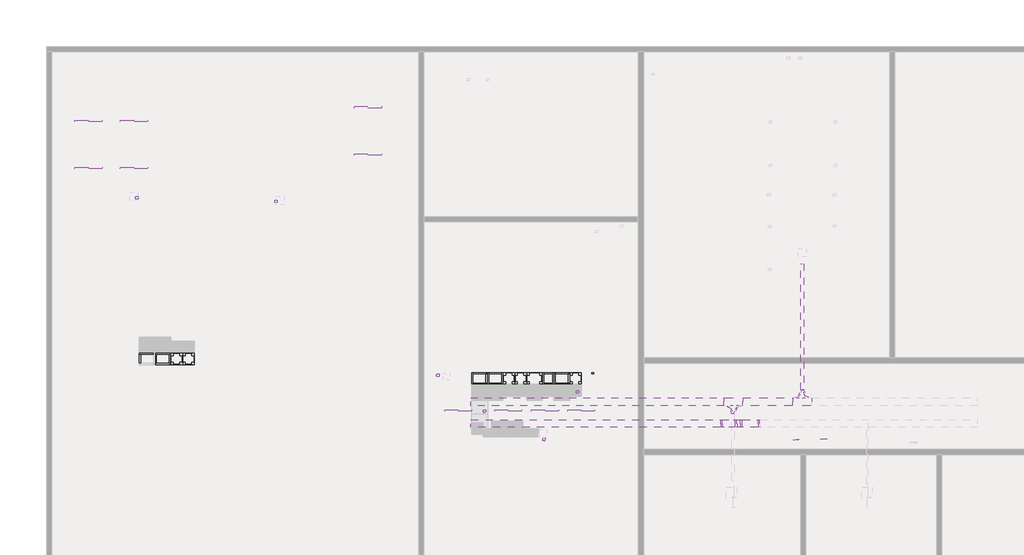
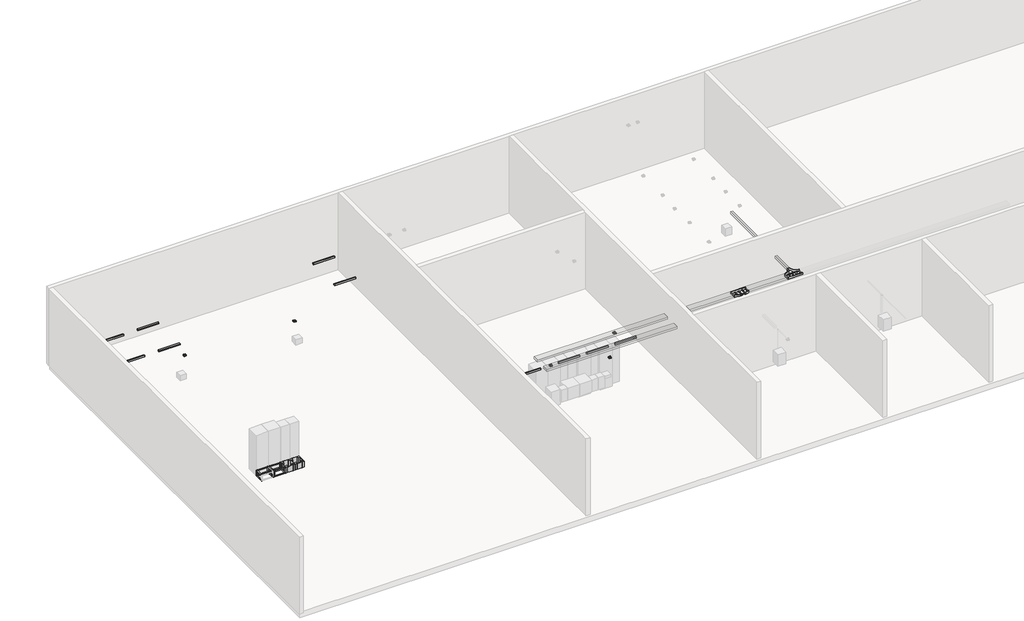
# One storey, part 2 of 3: 79 proxies, 12 light fixtures, 7 cable carrier segments, 6 cable carrier fittings, 1 switching device.
"""IFC4 building model written with IfcOpenShell, lengths in millimetres."""

from ifc_helpers import new_model, si_unit, frame, origin, place, context, project, spatial, polyline, outline, extrude, transform, mapped, element, save
from components import electrical_fixtures_ff56aada, electrical_equipment_4f19a133, electrical_equipment_901cc76d, electrical_equipment_40f9489f, electrical_equipment_06911bee, electrical_equipment_d66dbdba, electrical_equipment_c6ea6501, cable_carrier_fitting_4d649961, cable_carrier_fitting_a6b9008f, cable_carrier_fitting_a781886d, cable_carrier_fitting_0e7ed510, cable_carrier_fitting_be630497, light_fixture_a1cd45f6, light_fixture_98ed1024, switching_device_7e4b18a8

model = new_model("IFC4")

# Units and contexts
model_context = context("Model", 3, world=origin())
ifc_project = project(units=[si_unit("LENGTHUNIT", "METRE", prefix="MILLI")], contexts=[model_context])

# Site, building, storey
site = spatial("IfcSite", under=ifc_project)
building = spatial("IfcBuilding", under=site)
storey = spatial("IfcBuildingStorey", under=building, Name="Координационный план", Elevation=0.0)

# Proxies
placement = place(None, origin())
electrical_fixtures_shape = electrical_fixtures_ff56aada(model_context)
element("IfcBuildingElementProxy", 1, Name="mS_EF_НГ_электроприбор : mS_EF_НГ_электроприбор", ObjectType="mS_EF_НГ_электроприбор : mS_EF_НГ_электроприбор", at=placement, inside=storey, context=model_context, shape_type="MappedRepresentation", body=[
    mapped(electrical_fixtures_shape, transform((-10869.8851164, 9389.7978486, 2712.088133), x_axis=(1.0, 0.0, 0.0), y_axis=(0.0, 1.0, 0.0), z_axis=(0.0, 0.0, 1.0))),
])
element("IfcBuildingElementProxy", 2, Name="mS_EF_НГ_электроприбор : mS_EF_НГ_электроприбор", ObjectType="mS_EF_НГ_электроприбор : mS_EF_НГ_электроприбор", at=placement, inside=storey, context=model_context, shape_type="MappedRepresentation", body=[
    mapped(electrical_fixtures_shape, transform((-5550.6256618, 9249.0275541, 2712.088133), x_axis=(1.0, 0.0, 0.0), y_axis=(0.0, 1.0, 0.0), z_axis=(0.0, 0.0, 1.0))),
])
electrical_equipment_shape = electrical_equipment_4f19a133(model_context)
element("IfcBuildingElementProxy", 3, Name="▲EE_Уголок_стальной : 50х50х5_мм", ObjectType="▲EE_Уголок_стальной : 50х50х5_мм", at=placement, inside=storey, context=model_context, shape_type="MappedRepresentation", body=[
    mapped(electrical_equipment_shape, transform((5675.225208, 2252.5292219, 0.0), x_axis=(-1.0, 0.0, 0.0), y_axis=(0.0, -1.0, 0.0), z_axis=(0.0, 0.0, 1.0))),
])
element("IfcBuildingElementProxy", 4, Name="▲EE_Уголок_стальной : 50х50х5_мм", ObjectType="▲EE_Уголок_стальной : 50х50х5_мм", at=placement, inside=storey, context=model_context, shape_type="MappedRepresentation", body=[
    mapped(electrical_equipment_shape, transform((5525.225208, 2702.5292219, 0.0), x_axis=(0.0, -1.0, 0.0), y_axis=(1.0, 0.0, 0.0), z_axis=(0.0, 0.0, 1.0))),
])
element("IfcBuildingElementProxy", 5, Name="▲EE_Уголок_стальной : 50х50х5_мм", ObjectType="▲EE_Уголок_стальной : 50х50х5_мм", at=placement, inside=storey, context=model_context, shape_type="MappedRepresentation", body=[
    mapped(electrical_equipment_shape, transform((5075.225208, 2252.5292219, 0.0), x_axis=(-1.0, 0.0, 0.0), y_axis=(0.0, -1.0, 0.0), z_axis=(0.0, 0.0, 1.0))),
])
element("IfcBuildingElementProxy", 6, Name="▲EE_Уголок_стальной : 50х50х5_мм", ObjectType="▲EE_Уголок_стальной : 50х50х5_мм", at=placement, inside=storey, context=model_context, shape_type="MappedRepresentation", body=[
    mapped(electrical_equipment_shape, transform((5075.225208, 2702.5292219, 0.0), x_axis=(0.0, -1.0, 0.0), y_axis=(1.0, 0.0, 0.0), z_axis=(0.0, 0.0, 1.0))),
])
element("IfcBuildingElementProxy", 7, Name="▲EE_Уголок_стальной : 50х50х5_мм", ObjectType="▲EE_Уголок_стальной : 50х50х5_мм", at=placement, inside=storey, context=model_context, shape_type="MappedRepresentation", body=[
    mapped(electrical_equipment_shape, transform((2525.225208, 2252.5292219, 0.0), x_axis=(-1.0, 0.0, 0.0), y_axis=(0.0, -1.0, 0.0), z_axis=(0.0, 0.0, 1.0))),
])
element("IfcBuildingElementProxy", 8, Name="▲EE_Уголок_стальной : 50х50х5_мм", ObjectType="▲EE_Уголок_стальной : 50х50х5_мм", at=placement, inside=storey, context=model_context, shape_type="MappedRepresentation", body=[
    mapped(electrical_equipment_shape, transform((2375.225208, 2702.5292219, 0.0), x_axis=(0.0, -1.0, 0.0), y_axis=(1.0, 0.0, 0.0), z_axis=(0.0, 0.0, 1.0))),
])
element("IfcBuildingElementProxy", 9, Name="▲EE_Уголок_стальной : 50х50х5_мм", ObjectType="▲EE_Уголок_стальной : 50х50х5_мм", at=placement, inside=storey, context=model_context, shape_type="MappedRepresentation", body=[
    mapped(electrical_equipment_shape, transform((3125.225208, 2252.5292219, 0.0), x_axis=(-1.0, 0.0, 0.0), y_axis=(0.0, -1.0, 0.0), z_axis=(0.0, 0.0, 1.0))),
])
element("IfcBuildingElementProxy", 10, Name="▲EE_Уголок_стальной : 50х50х5_мм", ObjectType="▲EE_Уголок_стальной : 50х50х5_мм", at=placement, inside=storey, context=model_context, shape_type="MappedRepresentation", body=[
    mapped(electrical_equipment_shape, transform((2975.225208, 2702.5292219, 0.0), x_axis=(0.0, -1.0, 0.0), y_axis=(1.0, 0.0, 0.0), z_axis=(0.0, 0.0, 1.0))),
])
element("IfcBuildingElementProxy", 11, Name="▲EE_Уголок_стальной : 50х50х5_мм", ObjectType="▲EE_Уголок_стальной : 50х50х5_мм", at=placement, inside=storey, context=model_context, shape_type="MappedRepresentation", body=[
    mapped(electrical_equipment_shape, transform((2075.225208, 2252.5292219, 0.0), x_axis=(0.0, 1.0, 0.0), y_axis=(-1.0, 0.0, 0.0), z_axis=(0.0, 0.0, 1.0))),
])
element("IfcBuildingElementProxy", 12, Name="▲EE_Уголок_стальной : 50х50х5_мм", ObjectType="▲EE_Уголок_стальной : 50х50х5_мм", at=placement, inside=storey, context=model_context, shape_type="MappedRepresentation", body=[
    mapped(electrical_equipment_shape, transform((1925.225208, 2702.5292219, 0.0), x_axis=(1.0, 0.0, 0.0), y_axis=(0.0, 1.0, 0.0), z_axis=(0.0, 0.0, 1.0))),
])
element("IfcBuildingElementProxy", 13, Name="▲EE_Уголок_стальной : 50х50х5_мм", ObjectType="▲EE_Уголок_стальной : 50х50х5_мм", at=placement, inside=storey, context=model_context, shape_type="MappedRepresentation", body=[
    mapped(electrical_equipment_shape, transform((2675.225208, 2252.5292219, 0.0), x_axis=(0.0, 1.0, 0.0), y_axis=(-1.0, 0.0, 0.0), z_axis=(0.0, 0.0, 1.0))),
])
element("IfcBuildingElementProxy", 14, Name="▲EE_Уголок_стальной : 50х50х5_мм", ObjectType="▲EE_Уголок_стальной : 50х50х5_мм", at=placement, inside=storey, context=model_context, shape_type="MappedRepresentation", body=[
    mapped(electrical_equipment_shape, transform((2525.225208, 2702.5292219, 0.0), x_axis=(1.0, 0.0, 0.0), y_axis=(0.0, 1.0, 0.0), z_axis=(0.0, 0.0, 1.0))),
])
element("IfcBuildingElementProxy", 15, Name="▲EE_Уголок_стальной : 50х50х5_мм", ObjectType="▲EE_Уголок_стальной : 50х50х5_мм", at=placement, inside=storey, context=model_context, shape_type="MappedRepresentation", body=[
    mapped(electrical_equipment_shape, transform((4625.225208, 2252.5292219, 0.0), x_axis=(0.0, 1.0, 0.0), y_axis=(-1.0, 0.0, 0.0), z_axis=(0.0, 0.0, 1.0))),
])
element("IfcBuildingElementProxy", 16, Name="▲EE_Уголок_стальной : 50х50х5_мм", ObjectType="▲EE_Уголок_стальной : 50х50х5_мм", at=placement, inside=storey, context=model_context, shape_type="MappedRepresentation", body=[
    mapped(electrical_equipment_shape, transform((4625.225208, 2702.5292219, 0.0), x_axis=(1.0, 0.0, 0.0), y_axis=(0.0, 1.0, 0.0), z_axis=(0.0, 0.0, 1.0))),
])
element("IfcBuildingElementProxy", 17, Name="▲EE_Уголок_стальной : 50х50х5_мм", ObjectType="▲EE_Уголок_стальной : 50х50х5_мм", at=placement, inside=storey, context=model_context, shape_type="MappedRepresentation", body=[
    mapped(electrical_equipment_shape, transform((5225.225208, 2252.5292219, 0.0), x_axis=(0.0, 1.0, 0.0), y_axis=(-1.0, 0.0, 0.0), z_axis=(0.0, 0.0, 1.0))),
])
element("IfcBuildingElementProxy", 18, Name="▲EE_Уголок_стальной : 50х50х5_мм", ObjectType="▲EE_Уголок_стальной : 50х50х5_мм", at=placement, inside=storey, context=model_context, shape_type="MappedRepresentation", body=[
    mapped(electrical_equipment_shape, transform((5075.225208, 2702.5292219, 0.0), x_axis=(1.0, 0.0, 0.0), y_axis=(0.0, 1.0, 0.0), z_axis=(0.0, 0.0, 1.0))),
])
element("IfcBuildingElementProxy", 19, Name="▲EE_Уголок_стальной : 50х50х5_мм", ObjectType="▲EE_Уголок_стальной : 50х50х5_мм", at=placement, inside=storey, context=model_context, shape_type="MappedRepresentation", body=[
    mapped(electrical_equipment_shape, transform((-10174.8851164, 3459.0275541, 0.0), x_axis=(1.0, 0.0, 0.0), y_axis=(0.0, 1.0, 0.0), z_axis=(0.0, 0.0, 1.0))),
])
element("IfcBuildingElementProxy", 20, Name="▲EE_Уголок_стальной : 50х50х5_мм", ObjectType="▲EE_Уголок_стальной : 50х50х5_мм", at=placement, inside=storey, context=model_context, shape_type="MappedRepresentation", body=[
    mapped(electrical_equipment_shape, transform((-10024.8851164, 3009.0275541, 0.0), x_axis=(0.0, 1.0, 0.0), y_axis=(-1.0, 0.0, 0.0), z_axis=(0.0, 0.0, 1.0))),
])
element("IfcBuildingElementProxy", 21, Name="▲EE_Уголок_стальной : 50х50х5_мм", ObjectType="▲EE_Уголок_стальной : 50х50х5_мм", at=placement, inside=storey, context=model_context, shape_type="MappedRepresentation", body=[
    mapped(electrical_equipment_shape, transform((-10324.8851164, 3459.0275541, 0.0), x_axis=(0.0, -1.0, 0.0), y_axis=(1.0, 0.0, 0.0), z_axis=(0.0, 0.0, 1.0))),
])
element("IfcBuildingElementProxy", 22, Name="▲EE_Уголок_стальной : 50х50х5_мм", ObjectType="▲EE_Уголок_стальной : 50х50х5_мм", at=placement, inside=storey, context=model_context, shape_type="MappedRepresentation", body=[
    mapped(electrical_equipment_shape, transform((-10174.8851164, 3009.0275541, 0.0), x_axis=(-1.0, 0.0, 0.0), y_axis=(0.0, -1.0, 0.0), z_axis=(0.0, 0.0, 1.0))),
])
element("IfcBuildingElementProxy", 23, Name="▲EE_Уголок_стальной : 50х50х5_мм", ObjectType="▲EE_Уголок_стальной : 50х50х5_мм", at=placement, inside=storey, context=model_context, shape_type="MappedRepresentation", body=[
    mapped(electrical_equipment_shape, transform((-9724.8851164, 3459.0275541, 0.0), x_axis=(0.0, -1.0, 0.0), y_axis=(1.0, 0.0, 0.0), z_axis=(0.0, 0.0, 1.0))),
])
element("IfcBuildingElementProxy", 24, Name="▲EE_Уголок_стальной : 50х50х5_мм", ObjectType="▲EE_Уголок_стальной : 50х50х5_мм", at=placement, inside=storey, context=model_context, shape_type="MappedRepresentation", body=[
    mapped(electrical_equipment_shape, transform((-9574.8851164, 3009.0275541, 0.0), x_axis=(-1.0, 0.0, 0.0), y_axis=(0.0, -1.0, 0.0), z_axis=(0.0, 0.0, 1.0))),
])
electrical_equipment_2_shape = electrical_equipment_901cc76d(model_context)
element("IfcBuildingElementProxy", 25, Name="▲EE_Уголок_стальной : 50х50х5_мм", ObjectType="▲EE_Уголок_стальной : 50х50х5_мм", at=placement, inside=storey, context=model_context, shape_type="MappedRepresentation", body=[
    mapped(electrical_equipment_2_shape, transform((5075.225208, 2252.5292219, -150.0), x_axis=(1.0, 0.0, 0.0), y_axis=(0.0, 0.0, -1.0), z_axis=(0.0, 1.0, 0.0))),
])
element("IfcBuildingElementProxy", 26, Name="▲EE_Уголок_стальной : 50х50х5_мм", ObjectType="▲EE_Уголок_стальной : 50х50х5_мм", at=placement, inside=storey, context=model_context, shape_type="MappedRepresentation", body=[
    mapped(electrical_equipment_2_shape, transform((5675.225208, 2252.5292219, 450.0), x_axis=(-1.0, 0.0, 0.0), y_axis=(0.0, 0.0, 1.0), z_axis=(0.0, 1.0, 0.0))),
])
element("IfcBuildingElementProxy", 27, Name="▲EE_Уголок_стальной : 50х50х5_мм", ObjectType="▲EE_Уголок_стальной : 50х50х5_мм", at=placement, inside=storey, context=model_context, shape_type="MappedRepresentation", body=[
    mapped(electrical_equipment_2_shape, transform((5525.225208, 2252.5292219, 0.0), x_axis=(0.0, 0.0, 1.0), y_axis=(1.0, 0.0, 0.0), z_axis=(0.0, 1.0, 0.0))),
])
element("IfcBuildingElementProxy", 28, Name="▲EE_Уголок_стальной : 50х50х5_мм", ObjectType="▲EE_Уголок_стальной : 50х50х5_мм", at=placement, inside=storey, context=model_context, shape_type="MappedRepresentation", body=[
    mapped(electrical_equipment_2_shape, transform((5225.225208, 2252.5292219, 300.0), x_axis=(0.0, 0.0, -1.0), y_axis=(-1.0, 0.0, 0.0), z_axis=(0.0, 1.0, 0.0))),
])
element("IfcBuildingElementProxy", 29, Name="▲EE_Уголок_стальной : 50х50х5_мм", ObjectType="▲EE_Уголок_стальной : 50х50х5_мм", at=placement, inside=storey, context=model_context, shape_type="MappedRepresentation", body=[
    mapped(electrical_equipment_2_shape, transform((4625.225208, 2252.5292219, -150.0), x_axis=(1.0, 0.0, 0.0), y_axis=(0.0, 0.0, -1.0), z_axis=(0.0, 1.0, 0.0))),
])
element("IfcBuildingElementProxy", 30, Name="▲EE_Уголок_стальной : 50х50х5_мм", ObjectType="▲EE_Уголок_стальной : 50х50х5_мм", at=placement, inside=storey, context=model_context, shape_type="MappedRepresentation", body=[
    mapped(electrical_equipment_2_shape, transform((5075.225208, 2702.5292219, 450.0), x_axis=(0.0, -1.0, 0.0), y_axis=(0.0, 0.0, 1.0), z_axis=(-1.0, 0.0, 0.0))),
])
element("IfcBuildingElementProxy", 31, Name="▲EE_Уголок_стальной : 50х50х5_мм", ObjectType="▲EE_Уголок_стальной : 50х50х5_мм", at=placement, inside=storey, context=model_context, shape_type="MappedRepresentation", body=[
    mapped(electrical_equipment_2_shape, transform((5075.225208, 2252.5292219, 300.0), x_axis=(0.0, 0.0, -1.0), y_axis=(0.0, -1.0, 0.0), z_axis=(-1.0, 0.0, 0.0))),
])
element("IfcBuildingElementProxy", 32, Name="▲EE_Уголок_стальной : 50х50х5_мм", ObjectType="▲EE_Уголок_стальной : 50х50х5_мм", at=placement, inside=storey, context=model_context, shape_type="MappedRepresentation", body=[
    mapped(electrical_equipment_2_shape, transform((5075.225208, 2702.5292219, 0.0), x_axis=(0.0, 0.0, 1.0), y_axis=(0.0, 1.0, 0.0), z_axis=(-1.0, 0.0, 0.0))),
])
element("IfcBuildingElementProxy", 33, Name="▲EE_Уголок_стальной : 50х50х5_мм", ObjectType="▲EE_Уголок_стальной : 50х50х5_мм", at=placement, inside=storey, context=model_context, shape_type="MappedRepresentation", body=[
    mapped(electrical_equipment_2_shape, transform((5075.225208, 2252.5292219, -150.0), x_axis=(0.0, 1.0, 0.0), y_axis=(0.0, 0.0, -1.0), z_axis=(-1.0, 0.0, 0.0))),
])
element("IfcBuildingElementProxy", 34, Name="▲EE_Уголок_стальной : 50х50х5_мм", ObjectType="▲EE_Уголок_стальной : 50х50х5_мм", at=placement, inside=storey, context=model_context, shape_type="MappedRepresentation", body=[
    mapped(electrical_equipment_2_shape, transform((5075.225208, 2252.5292219, 450.0), x_axis=(-1.0, 0.0, 0.0), y_axis=(0.0, 0.0, 1.0), z_axis=(0.0, 1.0, 0.0))),
])
element("IfcBuildingElementProxy", 35, Name="▲EE_Уголок_стальной : 50х50х5_мм", ObjectType="▲EE_Уголок_стальной : 50х50х5_мм", at=placement, inside=storey, context=model_context, shape_type="MappedRepresentation", body=[
    mapped(electrical_equipment_2_shape, transform((5075.225208, 2252.5292219, 0.0), x_axis=(0.0, 0.0, 1.0), y_axis=(1.0, 0.0, 0.0), z_axis=(0.0, 1.0, 0.0))),
])
element("IfcBuildingElementProxy", 36, Name="▲EE_Уголок_стальной : 50х50х5_мм", ObjectType="▲EE_Уголок_стальной : 50х50х5_мм", at=placement, inside=storey, context=model_context, shape_type="MappedRepresentation", body=[
    mapped(electrical_equipment_2_shape, transform((4625.225208, 2252.5292219, 300.0), x_axis=(0.0, 0.0, -1.0), y_axis=(-1.0, 0.0, 0.0), z_axis=(0.0, 1.0, 0.0))),
])
element("IfcBuildingElementProxy", 37, Name="▲EE_Уголок_стальной : 50х50х5_мм", ObjectType="▲EE_Уголок_стальной : 50х50х5_мм", at=placement, inside=storey, context=model_context, shape_type="MappedRepresentation", body=[
    mapped(electrical_equipment_2_shape, transform((1925.225208, 2252.5292219, -150.0), x_axis=(1.0, 0.0, 0.0), y_axis=(0.0, 0.0, -1.0), z_axis=(0.0, 1.0, 0.0))),
])
element("IfcBuildingElementProxy", 38, Name="▲EE_Уголок_стальной : 50х50х5_мм", ObjectType="▲EE_Уголок_стальной : 50х50х5_мм", at=placement, inside=storey, context=model_context, shape_type="MappedRepresentation", body=[
    mapped(electrical_equipment_2_shape, transform((2525.225208, 2252.5292219, 450.0), x_axis=(-1.0, 0.0, 0.0), y_axis=(0.0, 0.0, 1.0), z_axis=(0.0, 1.0, 0.0))),
])
element("IfcBuildingElementProxy", 39, Name="▲EE_Уголок_стальной : 50х50х5_мм", ObjectType="▲EE_Уголок_стальной : 50х50х5_мм", at=placement, inside=storey, context=model_context, shape_type="MappedRepresentation", body=[
    mapped(electrical_equipment_2_shape, transform((2375.225208, 2252.5292219, 0.0), x_axis=(0.0, 0.0, 1.0), y_axis=(1.0, 0.0, 0.0), z_axis=(0.0, 1.0, 0.0))),
])
element("IfcBuildingElementProxy", 40, Name="▲EE_Уголок_стальной : 50х50х5_мм", ObjectType="▲EE_Уголок_стальной : 50х50х5_мм", at=placement, inside=storey, context=model_context, shape_type="MappedRepresentation", body=[
    mapped(electrical_equipment_2_shape, transform((2075.225208, 2252.5292219, 300.0), x_axis=(0.0, 0.0, -1.0), y_axis=(-1.0, 0.0, 0.0), z_axis=(0.0, 1.0, 0.0))),
])
element("IfcBuildingElementProxy", 41, Name="▲EE_Уголок_стальной : 50х50х5_мм", ObjectType="▲EE_Уголок_стальной : 50х50х5_мм", at=placement, inside=storey, context=model_context, shape_type="MappedRepresentation", body=[
    mapped(electrical_equipment_2_shape, transform((2525.225208, 2252.5292219, -150.0), x_axis=(1.0, 0.0, 0.0), y_axis=(0.0, 0.0, -1.0), z_axis=(0.0, 1.0, 0.0))),
])
element("IfcBuildingElementProxy", 42, Name="▲EE_Уголок_стальной : 50х50х5_мм", ObjectType="▲EE_Уголок_стальной : 50х50х5_мм", at=placement, inside=storey, context=model_context, shape_type="MappedRepresentation", body=[
    mapped(electrical_equipment_2_shape, transform((3125.225208, 2252.5292219, 450.0), x_axis=(-1.0, 0.0, 0.0), y_axis=(0.0, 0.0, 1.0), z_axis=(0.0, 1.0, 0.0))),
])
element("IfcBuildingElementProxy", 43, Name="▲EE_Уголок_стальной : 50х50х5_мм", ObjectType="▲EE_Уголок_стальной : 50х50х5_мм", at=placement, inside=storey, context=model_context, shape_type="MappedRepresentation", body=[
    mapped(electrical_equipment_2_shape, transform((2975.225208, 2252.5292219, 0.0), x_axis=(0.0, 0.0, 1.0), y_axis=(1.0, 0.0, 0.0), z_axis=(0.0, 1.0, 0.0))),
])
element("IfcBuildingElementProxy", 44, Name="▲EE_Уголок_стальной : 50х50х5_мм", ObjectType="▲EE_Уголок_стальной : 50х50х5_мм", at=placement, inside=storey, context=model_context, shape_type="MappedRepresentation", body=[
    mapped(electrical_equipment_2_shape, transform((2675.225208, 2252.5292219, 300.0), x_axis=(0.0, 0.0, -1.0), y_axis=(-1.0, 0.0, 0.0), z_axis=(0.0, 1.0, 0.0))),
])
element("IfcBuildingElementProxy", 45, Name="▲EE_Уголок_стальной : 50х50х5_мм", ObjectType="▲EE_Уголок_стальной : 50х50х5_мм", at=placement, inside=storey, context=model_context, shape_type="MappedRepresentation", body=[
    mapped(electrical_equipment_2_shape, transform((-10774.8851164, 3459.0275541, 450.0), x_axis=(1.0, 0.0, 0.0), y_axis=(0.0, 0.0, 1.0), z_axis=(0.0, -1.0, 0.0))),
])
element("IfcBuildingElementProxy", 46, Name="▲EE_Уголок_стальной : 50х50х5_мм", ObjectType="▲EE_Уголок_стальной : 50х50х5_мм", at=placement, inside=storey, context=model_context, shape_type="MappedRepresentation", body=[
    mapped(electrical_equipment_2_shape, transform((-10624.8851164, 3459.0275541, 0.0), x_axis=(0.0, 0.0, 1.0), y_axis=(-1.0, 0.0, 0.0), z_axis=(0.0, -1.0, 0.0))),
])
element("IfcBuildingElementProxy", 47, Name="▲EE_Уголок_стальной : 50х50х5_мм", ObjectType="▲EE_Уголок_стальной : 50х50х5_мм", at=placement, inside=storey, context=model_context, shape_type="MappedRepresentation", body=[
    mapped(electrical_equipment_2_shape, transform((-10324.8851164, 3459.0275541, 300.0), x_axis=(0.0, 0.0, -1.0), y_axis=(1.0, 0.0, 0.0), z_axis=(0.0, -1.0, 0.0))),
])
element("IfcBuildingElementProxy", 48, Name="▲EE_Уголок_стальной : 50х50х5_мм", ObjectType="▲EE_Уголок_стальной : 50х50х5_мм", at=placement, inside=storey, context=model_context, shape_type="MappedRepresentation", body=[
    mapped(electrical_equipment_2_shape, transform((-9574.8851164, 3459.0275541, -150.0), x_axis=(-1.0, 0.0, 0.0), y_axis=(0.0, 0.0, -1.0), z_axis=(0.0, -1.0, 0.0))),
])
element("IfcBuildingElementProxy", 49, Name="▲EE_Уголок_стальной : 50х50х5_мм", ObjectType="▲EE_Уголок_стальной : 50х50х5_мм", at=placement, inside=storey, context=model_context, shape_type="MappedRepresentation", body=[
    mapped(electrical_equipment_2_shape, transform((-10174.8851164, 3459.0275541, 450.0), x_axis=(1.0, 0.0, 0.0), y_axis=(0.0, 0.0, 1.0), z_axis=(0.0, -1.0, 0.0))),
])
element("IfcBuildingElementProxy", 50, Name="▲EE_Уголок_стальной : 50х50х5_мм", ObjectType="▲EE_Уголок_стальной : 50х50х5_мм", at=placement, inside=storey, context=model_context, shape_type="MappedRepresentation", body=[
    mapped(electrical_equipment_2_shape, transform((-10024.8851164, 3459.0275541, 0.0), x_axis=(0.0, 0.0, 1.0), y_axis=(-1.0, 0.0, 0.0), z_axis=(0.0, -1.0, 0.0))),
])
element("IfcBuildingElementProxy", 51, Name="▲EE_Уголок_стальной : 50х50х5_мм", ObjectType="▲EE_Уголок_стальной : 50х50х5_мм", at=placement, inside=storey, context=model_context, shape_type="MappedRepresentation", body=[
    mapped(electrical_equipment_2_shape, transform((-9724.8851164, 3459.0275541, 300.0), x_axis=(0.0, 0.0, -1.0), y_axis=(1.0, 0.0, 0.0), z_axis=(0.0, -1.0, 0.0))),
])
electrical_equipment_3_shape = electrical_equipment_40f9489f(model_context)
element("IfcBuildingElementProxy", 52, Name="▲EE_Уголок_стальной : 50х50х5_мм", ObjectType="▲EE_Уголок_стальной : 50х50х5_мм", at=placement, inside=storey, context=model_context, shape_type="MappedRepresentation", body=[
    mapped(electrical_equipment_3_shape, transform((5675.225208, 2702.5292219, 450.0), x_axis=(0.0, -1.0, 0.0), y_axis=(0.0, 0.0, 1.0), z_axis=(-1.0, 0.0, 0.0))),
])
element("IfcBuildingElementProxy", 53, Name="▲EE_Уголок_стальной : 50х50х5_мм", ObjectType="▲EE_Уголок_стальной : 50х50х5_мм", at=placement, inside=storey, context=model_context, shape_type="MappedRepresentation", body=[
    mapped(electrical_equipment_3_shape, transform((5675.225208, 2252.5292219, 300.0), x_axis=(0.0, 0.0, -1.0), y_axis=(0.0, -1.0, 0.0), z_axis=(-1.0, 0.0, 0.0))),
])
element("IfcBuildingElementProxy", 54, Name="▲EE_Уголок_стальной : 50х50х5_мм", ObjectType="▲EE_Уголок_стальной : 50х50х5_мм", at=placement, inside=storey, context=model_context, shape_type="MappedRepresentation", body=[
    mapped(electrical_equipment_3_shape, transform((5675.225208, 2702.5292219, 0.0), x_axis=(0.0, 0.0, 1.0), y_axis=(0.0, 1.0, 0.0), z_axis=(-1.0, 0.0, 0.0))),
])
element("IfcBuildingElementProxy", 55, Name="▲EE_Уголок_стальной : 50х50х5_мм", ObjectType="▲EE_Уголок_стальной : 50х50х5_мм", at=placement, inside=storey, context=model_context, shape_type="MappedRepresentation", body=[
    mapped(electrical_equipment_3_shape, transform((5675.225208, 2252.5292219, -150.0), x_axis=(0.0, 1.0, 0.0), y_axis=(0.0, 0.0, -1.0), z_axis=(-1.0, 0.0, 0.0))),
])
element("IfcBuildingElementProxy", 56, Name="▲EE_Уголок_стальной : 50х50х5_мм", ObjectType="▲EE_Уголок_стальной : 50х50х5_мм", at=placement, inside=storey, context=model_context, shape_type="MappedRepresentation", body=[
    mapped(electrical_equipment_3_shape, transform((2525.225208, 2702.5292219, 450.0), x_axis=(0.0, -1.0, 0.0), y_axis=(0.0, 0.0, 1.0), z_axis=(-1.0, 0.0, 0.0))),
])
element("IfcBuildingElementProxy", 57, Name="▲EE_Уголок_стальной : 50х50х5_мм", ObjectType="▲EE_Уголок_стальной : 50х50х5_мм", at=placement, inside=storey, context=model_context, shape_type="MappedRepresentation", body=[
    mapped(electrical_equipment_3_shape, transform((2525.225208, 2252.5292219, 300.0), x_axis=(0.0, 0.0, -1.0), y_axis=(0.0, -1.0, 0.0), z_axis=(-1.0, 0.0, 0.0))),
])
element("IfcBuildingElementProxy", 58, Name="▲EE_Уголок_стальной : 50х50х5_мм", ObjectType="▲EE_Уголок_стальной : 50х50х5_мм", at=placement, inside=storey, context=model_context, shape_type="MappedRepresentation", body=[
    mapped(electrical_equipment_3_shape, transform((2525.225208, 2702.5292219, 0.0), x_axis=(0.0, 0.0, 1.0), y_axis=(0.0, 1.0, 0.0), z_axis=(-1.0, 0.0, 0.0))),
])
element("IfcBuildingElementProxy", 59, Name="▲EE_Уголок_стальной : 50х50х5_мм", ObjectType="▲EE_Уголок_стальной : 50х50х5_мм", at=placement, inside=storey, context=model_context, shape_type="MappedRepresentation", body=[
    mapped(electrical_equipment_3_shape, transform((2525.225208, 2252.5292219, -150.0), x_axis=(0.0, 1.0, 0.0), y_axis=(0.0, 0.0, -1.0), z_axis=(-1.0, 0.0, 0.0))),
])
element("IfcBuildingElementProxy", 60, Name="▲EE_Уголок_стальной : 50х50х5_мм", ObjectType="▲EE_Уголок_стальной : 50х50х5_мм", at=placement, inside=storey, context=model_context, shape_type="MappedRepresentation", body=[
    mapped(electrical_equipment_3_shape, transform((3125.225208, 2702.5292219, 450.0), x_axis=(0.0, -1.0, 0.0), y_axis=(0.0, 0.0, 1.0), z_axis=(-1.0, 0.0, 0.0))),
])
element("IfcBuildingElementProxy", 61, Name="▲EE_Уголок_стальной : 50х50х5_мм", ObjectType="▲EE_Уголок_стальной : 50х50х5_мм", at=placement, inside=storey, context=model_context, shape_type="MappedRepresentation", body=[
    mapped(electrical_equipment_3_shape, transform((3125.225208, 2252.5292219, 300.0), x_axis=(0.0, 0.0, -1.0), y_axis=(0.0, -1.0, 0.0), z_axis=(-1.0, 0.0, 0.0))),
])
element("IfcBuildingElementProxy", 62, Name="▲EE_Уголок_стальной : 50х50х5_мм", ObjectType="▲EE_Уголок_стальной : 50х50х5_мм", at=placement, inside=storey, context=model_context, shape_type="MappedRepresentation", body=[
    mapped(electrical_equipment_3_shape, transform((3125.225208, 2702.5292219, 0.0), x_axis=(0.0, 0.0, 1.0), y_axis=(0.0, 1.0, 0.0), z_axis=(-1.0, 0.0, 0.0))),
])
element("IfcBuildingElementProxy", 63, Name="▲EE_Уголок_стальной : 50х50х5_мм", ObjectType="▲EE_Уголок_стальной : 50х50х5_мм", at=placement, inside=storey, context=model_context, shape_type="MappedRepresentation", body=[
    mapped(electrical_equipment_3_shape, transform((3125.225208, 2252.5292219, -150.0), x_axis=(0.0, 1.0, 0.0), y_axis=(0.0, 0.0, -1.0), z_axis=(-1.0, 0.0, 0.0))),
])
element("IfcBuildingElementProxy", 64, Name="▲EE_Уголок_стальной : 50х50х5_мм", ObjectType="▲EE_Уголок_стальной : 50х50х5_мм", at=placement, inside=storey, context=model_context, shape_type="MappedRepresentation", body=[
    mapped(electrical_equipment_3_shape, transform((-10774.8851164, 3009.0275541, 0.0), x_axis=(0.0, 0.0, 1.0), y_axis=(0.0, -1.0, 0.0), z_axis=(1.0, 0.0, 0.0))),
])
element("IfcBuildingElementProxy", 65, Name="▲EE_Уголок_стальной : 50х50х5_мм", ObjectType="▲EE_Уголок_стальной : 50х50х5_мм", at=placement, inside=storey, context=model_context, shape_type="MappedRepresentation", body=[
    mapped(electrical_equipment_3_shape, transform((-10774.8851164, 3459.0275541, -150.0), x_axis=(0.0, -1.0, 0.0), y_axis=(0.0, 0.0, -1.0), z_axis=(1.0, 0.0, 0.0))),
])
element("IfcBuildingElementProxy", 66, Name="▲EE_Уголок_стальной : 50х50х5_мм", ObjectType="▲EE_Уголок_стальной : 50х50х5_мм", at=placement, inside=storey, context=model_context, shape_type="MappedRepresentation", body=[
    mapped(electrical_equipment_3_shape, transform((-10174.8851164, 3009.0275541, 450.0), x_axis=(0.0, 1.0, 0.0), y_axis=(0.0, 0.0, 1.0), z_axis=(1.0, 0.0, 0.0))),
])
element("IfcBuildingElementProxy", 67, Name="▲EE_Уголок_стальной : 50х50х5_мм", ObjectType="▲EE_Уголок_стальной : 50х50х5_мм", at=placement, inside=storey, context=model_context, shape_type="MappedRepresentation", body=[
    mapped(electrical_equipment_3_shape, transform((-10174.8851164, 3459.0275541, 300.0), x_axis=(0.0, 0.0, -1.0), y_axis=(0.0, 1.0, 0.0), z_axis=(1.0, 0.0, 0.0))),
])
element("IfcBuildingElementProxy", 68, Name="▲EE_Уголок_стальной : 50х50х5_мм", ObjectType="▲EE_Уголок_стальной : 50х50х5_мм", at=placement, inside=storey, context=model_context, shape_type="MappedRepresentation", body=[
    mapped(electrical_equipment_3_shape, transform((-10174.8851164, 3009.0275541, 0.0), x_axis=(0.0, 0.0, 1.0), y_axis=(0.0, -1.0, 0.0), z_axis=(1.0, 0.0, 0.0))),
])
element("IfcBuildingElementProxy", 69, Name="▲EE_Уголок_стальной : 50х50х5_мм", ObjectType="▲EE_Уголок_стальной : 50х50х5_мм", at=placement, inside=storey, context=model_context, shape_type="MappedRepresentation", body=[
    mapped(electrical_equipment_3_shape, transform((-10174.8851164, 3459.0275541, -150.0), x_axis=(0.0, -1.0, 0.0), y_axis=(0.0, 0.0, -1.0), z_axis=(1.0, 0.0, 0.0))),
])
electrical_equipment_4_shape = electrical_equipment_06911bee(model_context)
element("IfcBuildingElementProxy", 70, Name="▲EE_Основание : заводское_300_мм", ObjectType="▲EE_Основание : заводское_300_мм", at=placement, inside=storey, context=model_context, shape_type="MappedRepresentation", body=[
    mapped(electrical_equipment_4_shape, transform((3350.225208, 2252.5292219, 0.0), x_axis=(-1.0, 0.0, 0.0), y_axis=(0.0, -1.0, 0.0), z_axis=(0.0, 0.0, 1.0))),
])
element("IfcBuildingElementProxy", 71, Name="▲EE_Основание : заводское_300_мм", ObjectType="▲EE_Основание : заводское_300_мм", at=placement, inside=storey, context=model_context, shape_type="MappedRepresentation", body=[
    mapped(electrical_equipment_4_shape, transform((3800.225208, 2252.5292219, 0.0), x_axis=(-1.0, 0.0, 0.0), y_axis=(0.0, -1.0, 0.0), z_axis=(0.0, 0.0, 1.0))),
])
element("IfcBuildingElementProxy", 72, Name="▲EE_Основание : заводское_300_мм", ObjectType="▲EE_Основание : заводское_300_мм", at=placement, inside=storey, context=model_context, shape_type="MappedRepresentation", body=[
    mapped(electrical_equipment_4_shape, transform((-9349.8851164, 3459.0275541, 0.0), x_axis=(1.0, 0.0, 0.0), y_axis=(0.0, 1.0, 0.0), z_axis=(0.0, 0.0, 1.0))),
])
element("IfcBuildingElementProxy", 73, Name="▲EE_Основание : заводское_300_мм", ObjectType="▲EE_Основание : заводское_300_мм", at=placement, inside=storey, context=model_context, shape_type="MappedRepresentation", body=[
    mapped(electrical_equipment_4_shape, transform((-8899.8851164, 3459.0275541, 0.0), x_axis=(1.0, 0.0, 0.0), y_axis=(0.0, 1.0, 0.0), z_axis=(0.0, 0.0, 1.0))),
])
element("IfcBuildingElementProxy", 74, Name="▲EE_Основание : заводское_300_мм", ObjectType="▲EE_Основание : заводское_300_мм", at=placement, inside=storey, context=model_context, shape_type="MappedRepresentation", body=[
    mapped(electrical_equipment_4_shape, transform((5900.225208, 2252.5292219, 0.0), x_axis=(-1.0, 0.0, 0.0), y_axis=(0.0, -1.0, 0.0), z_axis=(0.0, 0.0, 1.0))),
])
electrical_equipment_5_shape = electrical_equipment_d66dbdba(model_context)
element("IfcBuildingElementProxy", 75, Name="▲EE_Основание : заводское_300_мм", ObjectType="▲EE_Основание : заводское_300_мм", at=placement, inside=storey, context=model_context, shape_type="MappedRepresentation", body=[
    mapped(electrical_equipment_5_shape, transform((4325.225208, 2252.5292219, 0.0), x_axis=(-1.0, 0.0, 0.0), y_axis=(0.0, -1.0, 0.0), z_axis=(0.0, 0.0, 1.0))),
])
element("IfcBuildingElementProxy", 76, Name="mS_EF_НГ_электроприбор : mS_EF_НГ_электроприбор", ObjectType="mS_EF_НГ_электроприбор : mS_EF_НГ_электроприбор", at=placement, inside=storey, context=model_context, shape_type="MappedRepresentation", body=[
    mapped(electrical_fixtures_shape, transform((4690.5263398, 142.7595439, 2759.3582254), x_axis=(1.0, 0.0, 0.0), y_axis=(0.0, 1.0, 0.0), z_axis=(0.0, 0.0, 1.0))),
])
electrical_equipment_6_shape = electrical_equipment_c6ea6501(model_context)
element("IfcBuildingElementProxy", 77, Name="mS_EE_НГ_транзит : КО_IP44_ОУ_IEK_КМ41233_6Вв", ObjectType="mS_EE_НГ_транзит : КО_IP44_ОУ_IEK_КМ41233_6Вв", at=placement, inside=storey, context=model_context, shape_type="MappedRepresentation", body=[
    mapped(electrical_equipment_6_shape, transform((5980.4515096, 1969.9035091, 2500.0), x_axis=(1.0, 0.0, 0.0), y_axis=(0.0, 1.0, 0.0), z_axis=(0.0, 0.0, 1.0))),
])
element("IfcBuildingElementProxy", 78, Name="mS_EE_НГ_транзит : КО_IP44_ОУ_IEK_КМ41233_6Вв", ObjectType="mS_EE_НГ_транзит : КО_IP44_ОУ_IEK_КМ41233_6Вв", at=placement, inside=storey, context=model_context, shape_type="MappedRepresentation", body=[
    mapped(electrical_equipment_6_shape, transform((2415.5564936, 1234.2925215, 2500.0), x_axis=(1.0, 0.0, 0.0), y_axis=(0.0, 1.0, 0.0), z_axis=(0.0, 0.0, 1.0))),
])
element("IfcBuildingElementProxy", 79, Name="mS_EF_НГ_электроприбор : mS_EF_НГ_электроприбор", ObjectType="mS_EF_НГ_электроприбор : mS_EF_НГ_электроприбор", at=placement, inside=storey, context=model_context, shape_type="MappedRepresentation", body=[
    mapped(electrical_fixtures_shape, transform((635.225208, 2605.6042191, 1764.4022853), x_axis=(1.0, 0.0, 0.0), y_axis=(0.0, 1.0, 0.0), z_axis=(0.0, 0.0, 1.0))),
])

# Cable carrier fittings
cable_carrier_fitting_shape = cable_carrier_fitting_4d649961(model_context)
element("IfcCableCarrierFitting", 80, ObjectType="ADSK_Поворот вертикальный наружный_Лестничный лоток : Радиус 300 мм", at=placement, inside=storey, context=model_context, shape_type="MappedRepresentation", body=[
    mapped(cable_carrier_fitting_shape, transform((12907.8043426, 757.1822297, 2750.0), x_axis=(-1.0, 0.0, 0.0), y_axis=(0.0, 0.0, -1.0), z_axis=(0.0, -1.0, 0.0))),
])
cable_carrier_fitting_2_shape = cable_carrier_fitting_a6b9008f(model_context)
element("IfcCableCarrierFitting", 81, ObjectType="ADSK_Поворот вертикальный внутренний_Лестничный лоток : Радиус 300 мм", at=placement, inside=storey, context=model_context, shape_type="MappedRepresentation", body=[
    mapped(cable_carrier_fitting_2_shape, transform((12232.3635222, 757.1822297, 2581.5936892), x_axis=(1.0, 0.0, 0.0), y_axis=(0.0, 0.0, 1.0), z_axis=(0.0, -1.0, 0.0))),
])
cable_carrier_fitting_3_shape = cable_carrier_fitting_a781886d(model_context)
element("IfcCableCarrierFitting", 82, ObjectType="ADSK_Поворот вертикальный наружный_Лестничный лоток : Радиус 300 мм", at=placement, inside=storey, context=model_context, shape_type="MappedRepresentation", body=[
    mapped(cable_carrier_fitting_3_shape, transform((11487.8198093, 757.1822297, 2750.0), x_axis=(1.0, 0.0, 0.0), y_axis=(0.0, 0.0, -1.0), z_axis=(0.0, 1.0, 0.0))),
])
cable_carrier_fitting_4_shape = cable_carrier_fitting_0e7ed510(model_context)
element("IfcCableCarrierFitting", 83, ObjectType="ADSK_Поворот вертикальный внутренний_Лестничный лоток : Радиус 300 мм", at=placement, inside=storey, context=model_context, shape_type="MappedRepresentation", body=[
    mapped(cable_carrier_fitting_4_shape, transform((12026.5034264, 757.1822297, 2581.5936892), x_axis=(-1.0, 0.0, 0.0), y_axis=(0.0, 0.0, 1.0), z_axis=(0.0, 1.0, 0.0))),
])
cable_carrier_fitting_5_shape = cable_carrier_fitting_be630497(model_context)
element("IfcCableCarrierFitting", 84, ObjectType="ADSK_Ответвление_Лестничный лоток : Радиус 300 мм", at=placement, inside=storey, context=model_context, shape_type="MappedRepresentation", body=[
    mapped(cable_carrier_fitting_5_shape, transform((14563.1511731, 1585.0, 2750.0), x_axis=(-1.0, 0.0, 0.0), y_axis=(0.0, -1.0, 0.0), z_axis=(0.0, 0.0, 1.0))),
])
element("IfcCableCarrierFitting", 85, ObjectType="ADSK_Ответвление_Лестничный лоток : Радиус 300 мм", at=placement, inside=storey, context=model_context, shape_type="MappedRepresentation", body=[
    mapped(cable_carrier_fitting_5_shape, transform((11923.8206275, 1585.0, 2750.0), x_axis=(1.0, 0.0, 0.0), y_axis=(0.0, 1.0, 0.0), z_axis=(0.0, 0.0, 1.0))),
])

# Cable carrier segments
element("IfcCableCarrierSegment", 86, ObjectType="ADSK_Лестничный кабельный лоток", at=placement, inside=storey, context=model_context, shape_type="SweptSolid", body=[
    extrude(outline(polyline([(11563.8206275, 1735.0), (11563.8206275, 1435.0), (1899.7612457, 1435.0), (1899.7612457, 1735.0), (11563.8206275, 1735.0)])), frame((0.0, 0.0, 2700.0), z_axis=(0.0, 0.0, 1.0), x_axis=(1.0, 0.0, 0.0)), (0.0, 0.0, 1.0), 100.0),
])
element("IfcCableCarrierSegment", 87, ObjectType="ADSK_Лестничный кабельный лоток", at=placement, inside=storey, context=model_context, shape_type="SweptSolid", body=[
    extrude(outline(polyline([(14203.1511731, 1735.0), (14203.1511731, 1435.0), (12283.8206275, 1435.0), (12283.8206275, 1735.0), (14203.1511731, 1735.0)])), frame((0.0, 0.0, 2700.0), z_axis=(0.0, 0.0, 1.0), x_axis=(1.0, 0.0, 0.0)), (0.0, 0.0, 1.0), 100.0),
])
element("IfcCableCarrierSegment", 88, ObjectType="ADSK_Лестничный кабельный лоток", at=placement, inside=storey, context=model_context, shape_type="SweptSolid", body=[
    extrude(outline(polyline([(1899.7612457, 607.1822297), (1899.7612457, 907.1822297), (11424.3854894, 907.1822297), (11424.3854894, 607.1822297), (1899.7612457, 607.1822297)])), frame((0.0, 0.0, 2700.0), z_axis=(0.0, 0.0, 1.0), x_axis=(1.0, 0.0, 0.0)), (0.0, 0.0, 1.0), 100.0),
])
element("IfcCableCarrierSegment", 89, ObjectType="ADSK_Лестничный кабельный лоток", at=placement, inside=storey, context=model_context, shape_type="SweptSolid", body=[
    extrude(outline(polyline([(12089.9377463, 607.1822297), (12089.9377463, 907.1822297), (12179.3889259, 907.1822297), (12179.3889259, 607.1822297), (12089.9377463, 607.1822297)])), frame((0.0, 0.0, 2531.5936892), z_axis=(0.0, 0.0, 1.0), x_axis=(1.0, 0.0, 0.0)), (0.0, 0.0, 1.0), 100.0),
])
element("IfcCableCarrierSegment", 90, ObjectType="ADSK_Лестничный кабельный лоток", at=placement, inside=storey, context=model_context, shape_type="SweptSolid", body=[
    extrude(outline(polyline([(0.0, -300.0), (0.0, 0.0), (590.1693227, 0.0), (590.1693227, -300.0), (0.0, -300.0)])), frame((12868.499413, 607.1822297, 2688.6694989), z_axis=(-0.24192189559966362, 0.0, 0.9702957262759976), x_axis=(-0.9702957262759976, 0.0, -0.24192189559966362)), (0.0, 0.0, 1.0), 100.0),
])
element("IfcCableCarrierSegment", 91, ObjectType="ADSK_Лестничный кабельный лоток", at=placement, inside=storey, context=model_context, shape_type="SweptSolid", body=[
    extrude(outline(polyline([(0.0, -300.0), (0.0, 0.0), (437.5254821, 0.0), (437.5254821, -300.0), (0.0, -300.0)])), frame((11533.4452195, 907.1822297, 2683.3499071), z_axis=(0.2983842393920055, 0.0, 0.9544458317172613), x_axis=(0.9544458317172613, 0.0, -0.2983842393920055)), (0.0, 0.0, 1.0), 100.0),
])
element("IfcCableCarrierSegment", 92, ObjectType="ADSK_Перфорированный кабельный лоток", at=placement, inside=storey, context=model_context, shape_type="SweptSolid", body=[
    extrude(outline(polyline([(14613.1511731, 2045.0), (14513.1511731, 2045.0), (14513.1511731, 6865.0), (14613.1511731, 6865.0), (14613.1511731, 2045.0)])), frame((0.0, 0.0, 2700.0), z_axis=(0.0, 0.0, 1.0), x_axis=(1.0, 0.0, 0.0)), (0.0, 0.0, 1.0), 100.0),
])

# Light fixtures
light_fixture_shape = light_fixture_a1cd45f6(model_context)
element("IfcLightFixture", 93, ObjectType="LF_ОП_ТЛ : ДСП52_34_171_34Вт", at=placement, inside=storey, context=model_context, shape_type="MappedRepresentation", body=[
    mapped(light_fixture_shape, transform((6111.6286571, 1260.0, 2500.0), x_axis=(1.0, 0.0, 0.0), y_axis=(0.0, 1.0, 0.0), z_axis=(0.0, 0.0, 1.0))),
])
element("IfcLightFixture", 94, ObjectType="LF_ОП_ТЛ : ДСП52_34_171_34Вт", at=placement, inside=storey, context=model_context, shape_type="MappedRepresentation", body=[
    mapped(light_fixture_shape, transform((1411.6286571, 1260.0, 2500.0), x_axis=(1.0, 0.0, 0.0), y_axis=(0.0, 1.0, 0.0), z_axis=(0.0, 0.0, 1.0))),
])
element("IfcLightFixture", 95, ObjectType="LF_ОП_ТЛ : ДСП52_32_141_32Вт", at=placement, inside=storey, context=model_context, shape_type="MappedRepresentation", body=[
    mapped(light_fixture_shape, transform((-12715.2275151, 12326.7978486, 2500.0), x_axis=(1.0, 0.0, 0.0), y_axis=(0.0, 1.0, 0.0), z_axis=(0.0, 0.0, 1.0))),
])
element("IfcLightFixture", 96, ObjectType="LF_ОП_ТЛ : ДСП52_32_141_32Вт", at=placement, inside=storey, context=model_context, shape_type="MappedRepresentation", body=[
    mapped(light_fixture_shape, transform((-12715.2275151, 10526.7978486, 2500.0), x_axis=(1.0, 0.0, 0.0), y_axis=(0.0, 1.0, 0.0), z_axis=(0.0, 0.0, 1.0))),
])
element("IfcLightFixture", 97, ObjectType="LF_ОП_ТЛ : ДСП52_32_141_32Вт", at=placement, inside=storey, context=model_context, shape_type="MappedRepresentation", body=[
    mapped(light_fixture_shape, transform((-2037.2365381, 12846.4067366, 2500.0), x_axis=(1.0, 0.0, 0.0), y_axis=(0.0, 1.0, 0.0), z_axis=(0.0, 0.0, 1.0))),
])
element("IfcLightFixture", 98, ObjectType="LF_ОП_ТЛ : ДСП52_32_141_32Вт", at=placement, inside=storey, context=model_context, shape_type="MappedRepresentation", body=[
    mapped(light_fixture_shape, transform((-2037.2365381, 11046.4067366, 2500.0), x_axis=(1.0, 0.0, 0.0), y_axis=(0.0, 1.0, 0.0), z_axis=(0.0, 0.0, 1.0))),
])
element("IfcLightFixture", 99, ObjectType="LF_ОП_ТЛ : ДСП52_32_141_32Вт", at=placement, inside=storey, context=model_context, shape_type="MappedRepresentation", body=[
    mapped(light_fixture_shape, transform((-10975.2275151, 12326.7978486, 2500.0), x_axis=(1.0, 0.0, 0.0), y_axis=(0.0, 1.0, 0.0), z_axis=(0.0, 0.0, 1.0))),
])
element("IfcLightFixture", 100, ObjectType="LF_ОП_ТЛ : ДСП52_32_141_32Вт", at=placement, inside=storey, context=model_context, shape_type="MappedRepresentation", body=[
    mapped(light_fixture_shape, transform((-10975.2275151, 10526.7978486, 2500.0), x_axis=(1.0, 0.0, 0.0), y_axis=(0.0, 1.0, 0.0), z_axis=(0.0, 0.0, 1.0))),
])
element("IfcLightFixture", 101, ObjectType="LF_ОП_ТЛ : ДСП52_32_141_32Вт", at=placement, inside=storey, context=model_context, shape_type="MappedRepresentation", body=[
    mapped(light_fixture_shape, transform((3331.6286571, 1260.0, 2500.0), x_axis=(1.0, 0.0, 0.0), y_axis=(0.0, 1.0, 0.0), z_axis=(0.0, 0.0, 1.0))),
])
element("IfcLightFixture", 102, ObjectType="LF_ОП_ТЛ : ДСП52_32_141_32Вт", at=placement, inside=storey, context=model_context, shape_type="MappedRepresentation", body=[
    mapped(light_fixture_shape, transform((4731.6286571, 1260.0, 2500.0), x_axis=(1.0, 0.0, 0.0), y_axis=(0.0, 1.0, 0.0), z_axis=(0.0, 0.0, 1.0))),
])
light_fixture_2_shape = light_fixture_98ed1024(model_context)
element("IfcLightFixture", 103, ObjectType="▲LF_Знак_в_модели : ▲LF_Знак_в_модели", at=placement, inside=storey, context=model_context, shape_type="MappedRepresentation", body=[
    mapped(light_fixture_2_shape, transform((14320.9956485, 134.1797735, 1800.0), x_axis=(1.0, 0.0, 0.0), y_axis=(0.0, 1.0, 0.0), z_axis=(0.0, 0.0, 1.0))),
])
element("IfcLightFixture", 104, ObjectType="▲LF_Знак_в_модели : ▲LF_Знак_в_модели", at=placement, inside=storey, context=model_context, shape_type="MappedRepresentation", body=[
    mapped(light_fixture_2_shape, transform((15386.9362672, 164.4027662, 1800.0), x_axis=(1.0, 0.0, 0.0), y_axis=(0.0, 1.0, 0.0), z_axis=(0.0, 0.0, 1.0))),
])

# Switching device
switching_device_shape = switching_device_7e4b18a8(model_context)
element("IfcSwitchingDevice", 105, ObjectType="LD_В_П_ТЛ : В1_П1_IP54_ОУ_IEK_ВС20_10А", at=placement, inside=storey, context=model_context, shape_type="MappedRepresentation", body=[
    mapped(switching_device_shape, transform((6552.3506644, 2702.5292219, 1000.0), x_axis=(-1.0, 0.0, 0.0), y_axis=(0.0, -1.0, 0.0), z_axis=(0.0, 0.0, 1.0))),
])

save(model, "model.ifc")
